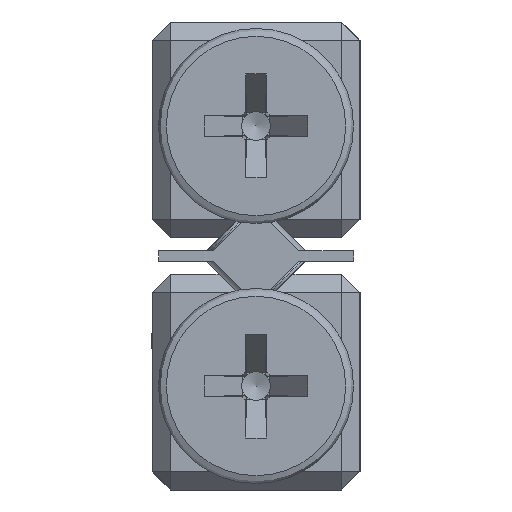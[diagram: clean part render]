
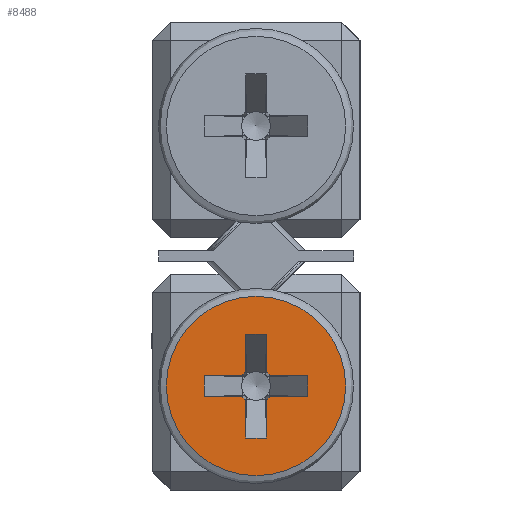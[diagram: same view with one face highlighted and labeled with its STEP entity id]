
A CAD part, left-side view. The second image highlights one B-rep face of the part: STEP entity #8488.
In plain terms, the highlighted planar face has unit normal (-1, 0, 0).
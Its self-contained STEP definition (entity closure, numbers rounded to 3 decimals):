
#600 = LINE ( 'NONE', #11785, #26813 ) ;
#635 = ORIENTED_EDGE ( 'NONE', *, *, #30886, .F. ) ;
#1217 = DIRECTION ( 'NONE',  ( 0., 0., 1. ) ) ;
#1855 = CARTESIAN_POINT ( 'NONE',  ( -152., 0., 4. ) ) ;
#2498 = FACE_OUTER_BOUND ( 'NONE', #24488, .T. ) ;
#2822 = EDGE_CURVE ( 'NONE', #5622, #17035, #26017, .T. ) ;
#3192 = CIRCLE ( 'NONE', #11702, 3.45 ) ;
#3329 = DIRECTION ( 'NONE',  ( 0., 0., 1. ) ) ;
#3394 = EDGE_CURVE ( 'NONE', #16542, #29251, #4478, .T. ) ;
#3508 = VECTOR ( 'NONE', #12421, 1000. ) ;
#4478 = LINE ( 'NONE', #29250, #29920 ) ;
#4846 = ORIENTED_EDGE ( 'NONE', *, *, #3394, .T. ) ;
#5087 = EDGE_CURVE ( 'NONE', #15411, #29251, #30457, .T. ) ;
#5242 = LINE ( 'NONE', #16093, #29588 ) ;
#5622 = VERTEX_POINT ( 'NONE', #24835 ) ;
#5844 = VECTOR ( 'NONE', #33310, 1000. ) ;
#6005 = LINE ( 'NONE', #27613, #17224 ) ;
#6118 = ORIENTED_EDGE ( 'NONE', *, *, #9688, .F. ) ;
#6206 = EDGE_CURVE ( 'NONE', #15411, #11345, #34897, .T. ) ;
#7234 = DIRECTION ( 'NONE',  ( -1., 0., 0. ) ) ;
#7456 = LINE ( 'NONE', #34888, #12791 ) ;
#7665 = CARTESIAN_POINT ( 'NONE',  ( -152., -0.548, 4.4 ) ) ;
#7857 = CARTESIAN_POINT ( 'NONE',  ( -152., -0.4, 2. ) ) ;
#8007 = DIRECTION ( 'NONE',  ( 0., 0., -1. ) ) ;
#8290 = ORIENTED_EDGE ( 'NONE', *, *, #6206, .T. ) ;
#8488 = ADVANCED_FACE ( 'NONE', ( #2498, #18485 ), #15655, .F. ) ;
#8853 = VECTOR ( 'NONE', #22771, 1000. ) ;
#9115 = ORIENTED_EDGE ( 'NONE', *, *, #14621, .F. ) ;
#9152 = CARTESIAN_POINT ( 'NONE',  ( -152., -0.4, 6. ) ) ;
#9440 = ORIENTED_EDGE ( 'NONE', *, *, #18041, .T. ) ;
#9688 = EDGE_CURVE ( 'NONE', #34880, #11345, #13395, .T. ) ;
#10179 = CARTESIAN_POINT ( 'NONE',  ( -152., -2., 3.6 ) ) ;
#10473 = CIRCLE ( 'NONE', #18973, 0.678 ) ;
#10714 = CARTESIAN_POINT ( 'NONE',  ( -152., 0.4, 2. ) ) ;
#11345 = VERTEX_POINT ( 'NONE', #20493 ) ;
#11430 = VERTEX_POINT ( 'NONE', #29313 ) ;
#11702 = AXIS2_PLACEMENT_3D ( 'NONE', #1855, #12711, #33921 ) ;
#11712 = CARTESIAN_POINT ( 'NONE',  ( -152., -2., 3.6 ) ) ;
#11785 = CARTESIAN_POINT ( 'NONE',  ( -152., -0.4, 6. ) ) ;
#11802 = VERTEX_POINT ( 'NONE', #10714 ) ;
#11885 = LINE ( 'NONE', #16847, #31893 ) ;
#12375 = AXIS2_PLACEMENT_3D ( 'NONE', #29252, #21471, #8007 ) ;
#12421 = DIRECTION ( 'NONE',  ( 0., 1., 0. ) ) ;
#12684 = CARTESIAN_POINT ( 'NONE',  ( -152., -2., 4.4 ) ) ;
#12711 = DIRECTION ( 'NONE',  ( -1., 0., 0. ) ) ;
#12791 = VECTOR ( 'NONE', #12976, 1000. ) ;
#12976 = DIRECTION ( 'NONE',  ( 0., -1., 0. ) ) ;
#12988 = ORIENTED_EDGE ( 'NONE', *, *, #16183, .T. ) ;
#13101 = ORIENTED_EDGE ( 'NONE', *, *, #16982, .T. ) ;
#13395 = CIRCLE ( 'NONE', #32053, 0.678 ) ;
#13719 = VECTOR ( 'NONE', #24472, 1000. ) ;
#13952 = ORIENTED_EDGE ( 'NONE', *, *, #2822, .F. ) ;
#14289 = CIRCLE ( 'NONE', #15433, 0.678 ) ;
#14578 = CARTESIAN_POINT ( 'NONE',  ( -152., 0.548, 3.6 ) ) ;
#14621 = EDGE_CURVE ( 'NONE', #16542, #32768, #14289, .T. ) ;
#15078 = LINE ( 'NONE', #17207, #3508 ) ;
#15411 = VERTEX_POINT ( 'NONE', #10179 ) ;
#15433 = AXIS2_PLACEMENT_3D ( 'NONE', #33443, #7234, #1217 ) ;
#15655 = PLANE ( 'NONE',  #12375 ) ;
#15817 = CARTESIAN_POINT ( 'NONE',  ( -152., -2., 3.6 ) ) ;
#15918 = EDGE_CURVE ( 'NONE', #17416, #17035, #5242, .T. ) ;
#15975 = DIRECTION ( 'NONE',  ( -1., 0., 0. ) ) ;
#16093 = CARTESIAN_POINT ( 'NONE',  ( -152., 2., 4.4 ) ) ;
#16112 = EDGE_LOOP ( 'NONE', ( #6118, #12988, #34053, #13101, #23803, #17619, #28812, #23835, #13952, #9440, #635, #24575, #9115, #4846, #33051, #8290 ) ) ;
#16183 = EDGE_CURVE ( 'NONE', #34880, #20523, #600, .T. ) ;
#16542 = VERTEX_POINT ( 'NONE', #7665 ) ;
#16666 = CARTESIAN_POINT ( 'NONE',  ( -152., 0.548, 4.4 ) ) ;
#16670 = DIRECTION ( 'NONE',  ( 0., 0., 1. ) ) ;
#16847 = CARTESIAN_POINT ( 'NONE',  ( -152., 0.4, 2. ) ) ;
#16982 = EDGE_CURVE ( 'NONE', #11802, #33551, #6005, .T. ) ;
#17035 = VERTEX_POINT ( 'NONE', #16666 ) ;
#17207 = CARTESIAN_POINT ( 'NONE',  ( -152., -0.4, 6. ) ) ;
#17224 = VECTOR ( 'NONE', #19484, 1000. ) ;
#17416 = VERTEX_POINT ( 'NONE', #28391 ) ;
#17548 = DIRECTION ( 'NONE',  ( 0., 0., -1. ) ) ;
#17619 = ORIENTED_EDGE ( 'NONE', *, *, #22427, .T. ) ;
#17694 = EDGE_CURVE ( 'NONE', #18804, #33551, #10473, .T. ) ;
#17818 = CARTESIAN_POINT ( 'NONE',  ( -152., 0., 0.55 ) ) ;
#18041 = EDGE_CURVE ( 'NONE', #5622, #27193, #11885, .T. ) ;
#18065 = LINE ( 'NONE', #28151, #20147 ) ;
#18485 = FACE_BOUND ( 'NONE', #16112, .T. ) ;
#18804 = VERTEX_POINT ( 'NONE', #14578 ) ;
#18973 = AXIS2_PLACEMENT_3D ( 'NONE', #26220, #31379, #26042 ) ;
#18979 = CARTESIAN_POINT ( 'NONE',  ( -152., 0., 4. ) ) ;
#19484 = DIRECTION ( 'NONE',  ( 0., 0., 1. ) ) ;
#19852 = VECTOR ( 'NONE', #3329, 1000. ) ;
#20147 = VECTOR ( 'NONE', #17548, 1000. ) ;
#20212 = CARTESIAN_POINT ( 'NONE',  ( -152., -2., 3.6 ) ) ;
#20378 = LINE ( 'NONE', #20212, #5844 ) ;
#20446 = VERTEX_POINT ( 'NONE', #17818 ) ;
#20493 = CARTESIAN_POINT ( 'NONE',  ( -152., -0.548, 3.6 ) ) ;
#20523 = VERTEX_POINT ( 'NONE', #7857 ) ;
#20799 = CARTESIAN_POINT ( 'NONE',  ( -152., -0.4, 6. ) ) ;
#21471 = DIRECTION ( 'NONE',  ( 1., 0., 0. ) ) ;
#22201 = ORIENTED_EDGE ( 'NONE', *, *, #28035, .T. ) ;
#22427 = EDGE_CURVE ( 'NONE', #18804, #11430, #20378, .T. ) ;
#22771 = DIRECTION ( 'NONE',  ( 0., 0., -1. ) ) ;
#23803 = ORIENTED_EDGE ( 'NONE', *, *, #17694, .F. ) ;
#23835 = ORIENTED_EDGE ( 'NONE', *, *, #15918, .T. ) ;
#24472 = DIRECTION ( 'NONE',  ( 0., 1., 0. ) ) ;
#24488 = EDGE_LOOP ( 'NONE', ( #22201 ) ) ;
#24575 = ORIENTED_EDGE ( 'NONE', *, *, #27834, .T. ) ;
#24797 = DIRECTION ( 'NONE',  ( 0., 0., 1. ) ) ;
#24835 = CARTESIAN_POINT ( 'NONE',  ( -152., 0.4, 4.548 ) ) ;
#25214 = EDGE_CURVE ( 'NONE', #11802, #20523, #7456, .T. ) ;
#25430 = EDGE_CURVE ( 'NONE', #17416, #11430, #18065, .T. ) ;
#25789 = CARTESIAN_POINT ( 'NONE',  ( -152., -0.4, 4.548 ) ) ;
#26017 = CIRCLE ( 'NONE', #26574, 0.678 ) ;
#26042 = DIRECTION ( 'NONE',  ( 0., 0., 1. ) ) ;
#26073 = DIRECTION ( 'NONE',  ( 0., -1., 0. ) ) ;
#26220 = CARTESIAN_POINT ( 'NONE',  ( -152., 0., 4. ) ) ;
#26574 = AXIS2_PLACEMENT_3D ( 'NONE', #34640, #32009, #29332 ) ;
#26813 = VECTOR ( 'NONE', #27875, 1000. ) ;
#26867 = DIRECTION ( 'NONE',  ( 0., -1., 0. ) ) ;
#27193 = VERTEX_POINT ( 'NONE', #33140 ) ;
#27613 = CARTESIAN_POINT ( 'NONE',  ( -152., 0.4, 2. ) ) ;
#27737 = LINE ( 'NONE', #9152, #8853 ) ;
#27834 = EDGE_CURVE ( 'NONE', #33258, #32768, #27737, .T. ) ;
#27875 = DIRECTION ( 'NONE',  ( 0., 0., -1. ) ) ;
#28035 = EDGE_CURVE ( 'NONE', #20446, #20446, #3192, .T. ) ;
#28151 = CARTESIAN_POINT ( 'NONE',  ( -152., 2., 4.4 ) ) ;
#28391 = CARTESIAN_POINT ( 'NONE',  ( -152., 2., 4.4 ) ) ;
#28812 = ORIENTED_EDGE ( 'NONE', *, *, #25430, .F. ) ;
#29250 = CARTESIAN_POINT ( 'NONE',  ( -152., 2., 4.4 ) ) ;
#29251 = VERTEX_POINT ( 'NONE', #12684 ) ;
#29252 = CARTESIAN_POINT ( 'NONE',  ( -152., 3.75, 4. ) ) ;
#29313 = CARTESIAN_POINT ( 'NONE',  ( -152., 2., 3.6 ) ) ;
#29332 = DIRECTION ( 'NONE',  ( 0., 0., 1. ) ) ;
#29588 = VECTOR ( 'NONE', #26867, 1000. ) ;
#29920 = VECTOR ( 'NONE', #26073, 1000. ) ;
#30457 = LINE ( 'NONE', #11712, #19852 ) ;
#30886 = EDGE_CURVE ( 'NONE', #33258, #27193, #15078, .T. ) ;
#30994 = CARTESIAN_POINT ( 'NONE',  ( -152., -0.4, 3.452 ) ) ;
#31379 = DIRECTION ( 'NONE',  ( -1., 0., 0. ) ) ;
#31893 = VECTOR ( 'NONE', #24797, 1000. ) ;
#32009 = DIRECTION ( 'NONE',  ( -1., 0., 0. ) ) ;
#32053 = AXIS2_PLACEMENT_3D ( 'NONE', #18979, #15975, #16670 ) ;
#32768 = VERTEX_POINT ( 'NONE', #25789 ) ;
#33051 = ORIENTED_EDGE ( 'NONE', *, *, #5087, .F. ) ;
#33140 = CARTESIAN_POINT ( 'NONE',  ( -152., 0.4, 6. ) ) ;
#33258 = VERTEX_POINT ( 'NONE', #20799 ) ;
#33310 = DIRECTION ( 'NONE',  ( 0., 1., 0. ) ) ;
#33443 = CARTESIAN_POINT ( 'NONE',  ( -152., 0., 4. ) ) ;
#33551 = VERTEX_POINT ( 'NONE', #35012 ) ;
#33921 = DIRECTION ( 'NONE',  ( 0., 0., -1. ) ) ;
#34053 = ORIENTED_EDGE ( 'NONE', *, *, #25214, .F. ) ;
#34640 = CARTESIAN_POINT ( 'NONE',  ( -152., 0., 4. ) ) ;
#34880 = VERTEX_POINT ( 'NONE', #30994 ) ;
#34888 = CARTESIAN_POINT ( 'NONE',  ( -152., 0.4, 2. ) ) ;
#34897 = LINE ( 'NONE', #15817, #13719 ) ;
#35012 = CARTESIAN_POINT ( 'NONE',  ( -152., 0.4, 3.452 ) ) ;
